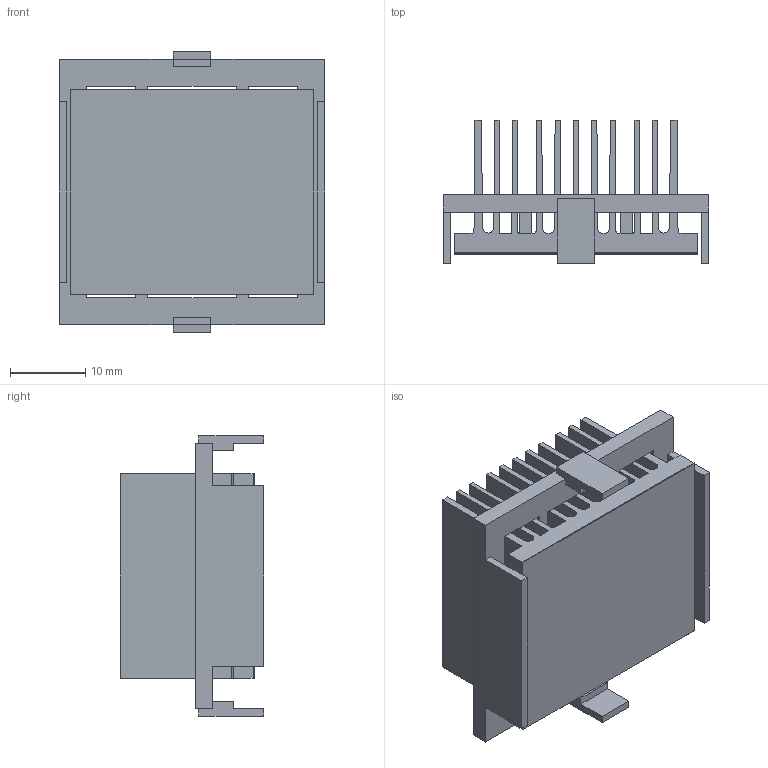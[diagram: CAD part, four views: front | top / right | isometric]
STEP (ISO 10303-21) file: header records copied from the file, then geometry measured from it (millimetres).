
FILE_DESCRIPTION (( 'STEP AP214' ), '1' );
FILE_NAME ('INH33001-18-2.6O.STEP', '2023-02-17T18:14:41', ( '' ), ( '' ), 'SwSTEP 2.0', 'SolidWorks 2020', '' );
FILE_SCHEMA (( 'AUTOMOTIVE_DESIGN' ));
Length unit declared in the file: millimetre
Products named in the file (1): INH33001-18-2.6O
Bounding box: 35.2 x 19 x 37.2 mm (x, y, z)
Volume: 7582.8 mm3; surface area: 15527.8 mm2
Topology: 3 solids, 3 shells, 130 faces, 372 edges, 248 vertices
Faces by surface type: plane 112, cylinder 18
Entity records: 5678 total; most frequent: CARTESIAN_POINT 751, ORIENTED_EDGE 744, DIRECTION 670, EDGE_CURVE 372, VECTOR 336, LINE 336, VERTEX_POINT 248, AXIS2_PLACEMENT_3D 167
